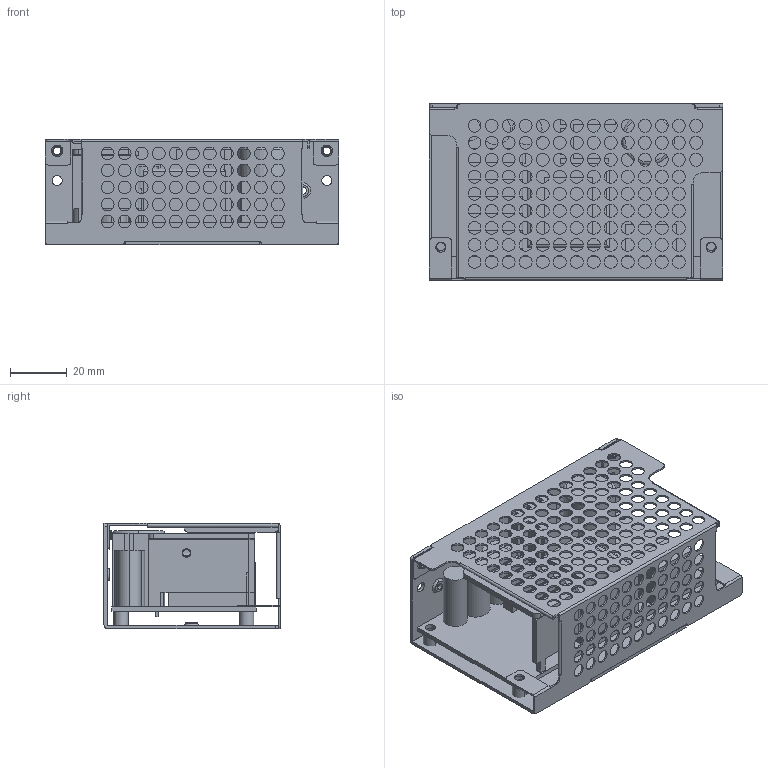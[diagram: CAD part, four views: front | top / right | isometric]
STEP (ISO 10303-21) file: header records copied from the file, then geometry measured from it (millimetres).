
FILE_DESCRIPTION(('Creo Elements/Direct Modeling STEP Export'),'2;1');
FILE_NAME('EPS-45-C.stp','2022-11-14T14:10:18',(''),(''),'PTC Creo Elements/Direct Modeling STEP processor for AP214 (Solid Model)','PTC Creo Elements/Direct Modeling 19.0E 27-Jun-2016 (C) Parametric Technology GmbH','');
FILE_SCHEMA(('AUTOMOTIVE_DESIGN { 1 0 10303 214 1 1 1 1 }'));
Length unit declared in the file: millimetre
Products named in the file (12): pin.1.1.1; p1; a2; M3-6L脸W-4; 946A-D; a1; 946; 55; PCB; FF; 946A-T.1
Assembly tree (14 placements, depth 4):
  a2
    p1
    pin.1.1.1  x2
  a1
    946A-T.1
    FF
    PCB
    55
    946
      a1
        946A-D
        M3-6L脸W-4  x4
Bounding box: 103.38 x 62.02 x 37 mm (x, y, z)
Volume: 68049.2 mm3; surface area: 64666.9 mm2
Topology: 12 solids, 12 shells, 787 faces, 2190 edges, 1438 vertices
Faces by surface type: cylinder 489, plane 266, torus 26, cone 6
Entity records: 23191 total; most frequent: ORIENTED_EDGE 4176, CARTESIAN_POINT 3753, DIRECTION 3710, EDGE_CURVE 2088, VERTEX_POINT 1370, AXIS2_PLACEMENT_3D 1327, EDGE_LOOP 1140, VECTOR 1056
